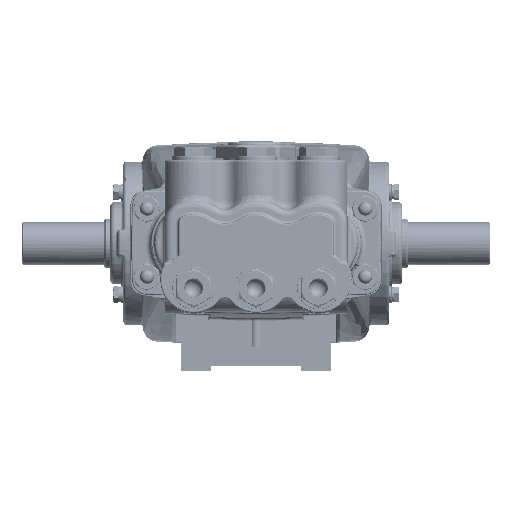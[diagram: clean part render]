
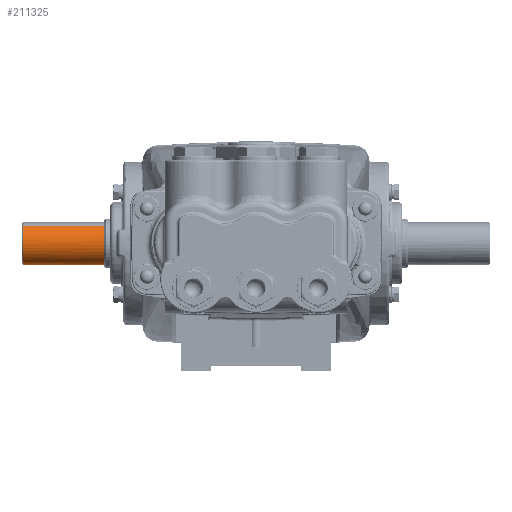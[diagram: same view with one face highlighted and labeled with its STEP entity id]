
A CAD part, top view. The second image highlights one B-rep face of the part: STEP entity #211325.
In plain terms, the highlighted cylindrical face has radius 15 mm (diameter 30 mm), a partial arc.
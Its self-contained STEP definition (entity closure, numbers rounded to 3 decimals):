
#1513 = EDGE_CURVE ( 'NONE', #69734, #139916, #235212, .T. ) ;
#4220 = CARTESIAN_POINT ( 'NONE',  ( -164., 0., -243.5 ) ) ;
#4222 = DIRECTION ( 'NONE',  ( 1., 0., 0. ) ) ;
#4224 = DIRECTION ( 'NONE',  ( 0., -0.833, -0.554 ) ) ;
#5617 = EDGE_CURVE ( 'NONE', #69734, #139693, #48197, .T. ) ;
#5619 = EDGE_CURVE ( 'NONE', #139693, #139629, #236064, .T. ) ;
#11152 = AXIS2_PLACEMENT_3D ( 'NONE', #4220, #4222, #4224 ) ;
#14227 = LINE ( 'NONE', #14228, #235473 ) ;
#14228 = CARTESIAN_POINT ( 'NONE',  ( -165., -14.253, -248.176 ) ) ;
#14230 = DIRECTION ( 'NONE',  ( 1., 0., 0. ) ) ;
#20114 = EDGE_CURVE ( 'NONE', #139852, #69708, #91089, .T. ) ;
#20115 = EDGE_CURVE ( 'NONE', #139852, #139629, #73897, .T. ) ;
#25305 = CARTESIAN_POINT ( 'NONE',  ( -107., -12.489, -251.807 ) ) ;
#25352 = CARTESIAN_POINT ( 'NONE',  ( -107., 12.489, -235.193 ) ) ;
#25470 = CARTESIAN_POINT ( 'NONE',  ( -110., -12.489, -251.807 ) ) ;
#25517 = CARTESIAN_POINT ( 'NONE',  ( -164., -14.253, -248.176 ) ) ;
#40046 = AXIS2_PLACEMENT_3D ( 'NONE', #48239, #48241, #48243 ) ;
#40049 = VECTOR ( 'NONE', #48201, 1000. ) ;
#41753 = VECTOR ( 'NONE', #73901, 1000. ) ;
#48197 = LINE ( 'NONE', #48199, #40049 ) ;
#48199 = CARTESIAN_POINT ( 'NONE',  ( -165., 12.489, -235.193 ) ) ;
#48201 = DIRECTION ( 'NONE',  ( 1., 0., 0. ) ) ;
#48239 = CARTESIAN_POINT ( 'NONE',  ( -107., 0., -243.5 ) ) ;
#48241 = DIRECTION ( 'NONE',  ( 1., 0., 0. ) ) ;
#48243 = DIRECTION ( 'NONE',  ( 0., -0.833, -0.554 ) ) ;
#55373 = ORIENTED_EDGE ( 'NONE', *, *, #5619, .F. ) ;
#55374 = ORIENTED_EDGE ( 'NONE', *, *, #20114, .F. ) ;
#69708 = VERTEX_POINT ( 'NONE', #189583 ) ;
#69734 = VERTEX_POINT ( 'NONE', #189609 ) ;
#72128 = FACE_OUTER_BOUND ( 'NONE', #204329, .T. ) ;
#72142 = AXIS2_PLACEMENT_3D ( 'NONE', #93109, #93111, #93113 ) ;
#72145 = CYLINDRICAL_SURFACE ( 'NONE', #72142, 15. ) ;
#73873 = CARTESIAN_POINT ( 'NONE',  ( -110., -12.489, -251.807 ) ) ;
#73881 = CARTESIAN_POINT ( 'NONE',  ( -110., -12.871, -251.233 ) ) ;
#73883 = CARTESIAN_POINT ( 'NONE',  ( -110.061, -13.21, -250.638 ) ) ;
#73885 = CARTESIAN_POINT ( 'NONE',  ( -110.249, -13.656, -249.715 ) ) ;
#73887 = CARTESIAN_POINT ( 'NONE',  ( -110.328, -13.793, -249.404 ) ) ;
#73889 = CARTESIAN_POINT ( 'NONE',  ( -110.515, -14.041, -248.788 ) ) ;
#73891 = CARTESIAN_POINT ( 'NONE',  ( -110.623, -14.152, -248.481 ) ) ;
#73893 = CARTESIAN_POINT ( 'NONE',  ( -110.747, -14.253, -248.176 ) ) ;
#73897 = LINE ( 'NONE', #73899, #41753 ) ;
#73899 = CARTESIAN_POINT ( 'NONE',  ( -165., -12.489, -251.807 ) ) ;
#73901 = DIRECTION ( 'NONE',  ( 1., 0., 0. ) ) ;
#91089 = B_SPLINE_CURVE_WITH_KNOTS ( 'NONE', 3,
 ( #73873, #73881, #73883, #73885, #73887, #73889, #73891, #73893 ),
 .UNSPECIFIED., .F., .F.,
 ( 4, 2, 2, 4 ),
 ( 0.037, 0.039, 0.04, 0.041 ),
 .UNSPECIFIED. ) ;
#93109 = CARTESIAN_POINT ( 'NONE',  ( -165., 0., -243.5 ) ) ;
#93111 = DIRECTION ( 'NONE',  ( 1., 0., 0. ) ) ;
#93113 = DIRECTION ( 'NONE',  ( 0., 0.833, 0.554 ) ) ;
#96201 = EDGE_CURVE ( 'NONE', #139916, #69708, #14227, .T. ) ;
#113599 = ORIENTED_EDGE ( 'NONE', *, *, #1513, .T. ) ;
#113603 = ORIENTED_EDGE ( 'NONE', *, *, #5617, .F. ) ;
#113609 = ORIENTED_EDGE ( 'NONE', *, *, #20115, .T. ) ;
#139629 = VERTEX_POINT ( 'NONE', #25305 ) ;
#139693 = VERTEX_POINT ( 'NONE', #25352 ) ;
#139852 = VERTEX_POINT ( 'NONE', #25470 ) ;
#139916 = VERTEX_POINT ( 'NONE', #25517 ) ;
#184332 = ORIENTED_EDGE ( 'NONE', *, *, #96201, .T. ) ;
#189583 = CARTESIAN_POINT ( 'NONE',  ( -110.747, -14.253, -248.176 ) ) ;
#189609 = CARTESIAN_POINT ( 'NONE',  ( -164., 12.489, -235.193 ) ) ;
#204329 = EDGE_LOOP ( 'NONE', ( #55374, #113609, #55373, #113603, #113599, #184332 ) ) ;
#211325 = ADVANCED_FACE ( 'NONE', ( #72128 ), #72145, .T. ) ;
#235212 = CIRCLE ( 'NONE', #11152, 15. ) ;
#235473 = VECTOR ( 'NONE', #14230, 1000. ) ;
#236064 = CIRCLE ( 'NONE', #40046, 15. ) ;
